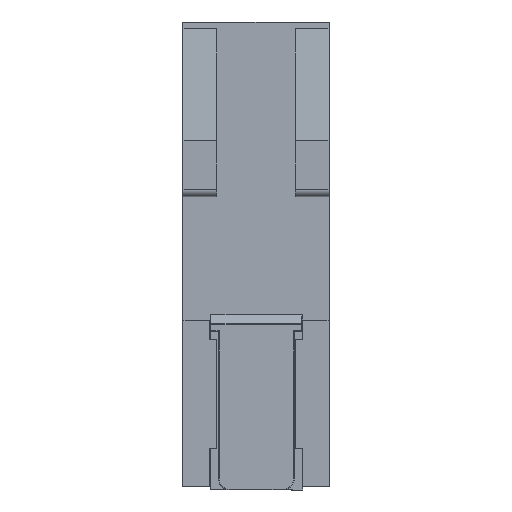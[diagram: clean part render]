
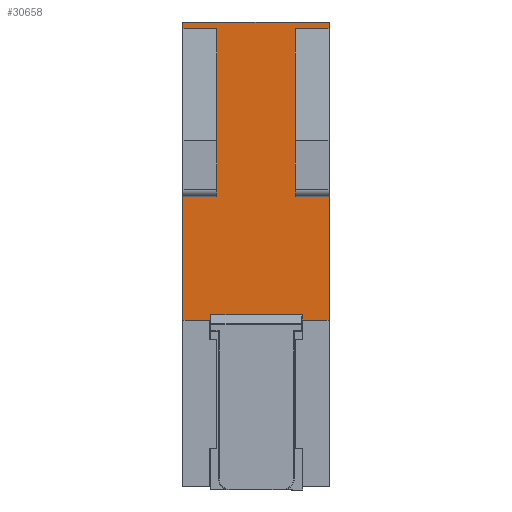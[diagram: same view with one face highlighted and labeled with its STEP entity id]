
A CAD part, left-side view. The second image highlights one B-rep face of the part: STEP entity #30658.
In plain terms, the highlighted planar face has unit normal (-1, 0, 0) as drawn and (1, 0, 0) by its records, which use the part's own axes.
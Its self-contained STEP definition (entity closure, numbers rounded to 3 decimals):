
#2240=FACE_OUTER_BOUND('',#3860,.T.);
#3860=EDGE_LOOP('',(#23546,#23547,#23548,#23549,#23550,#23551,#23552,#23553,
#23554,#23555,#23556,#23557,#23558,#23559,#23560,#23561));
#5960=LINE('',#42298,#9388);
#5966=LINE('',#42313,#9394);
#7420=LINE('',#46100,#10848);
#7431=LINE('',#46128,#10859);
#7432=LINE('',#46130,#10860);
#7433=LINE('',#46132,#10861);
#7434=LINE('',#46134,#10862);
#7435=LINE('',#46136,#10863);
#7436=LINE('',#46138,#10864);
#7437=LINE('',#46140,#10865);
#7438=LINE('',#46142,#10866);
#7439=LINE('',#46143,#10867);
#7440=LINE('',#46145,#10868);
#7441=LINE('',#46147,#10869);
#7442=LINE('',#46148,#10870);
#7443=LINE('',#46149,#10871);
#9388=VECTOR('',#34257,36.5);
#9394=VECTOR('',#34267,1.821);
#10848=VECTOR('',#37801,41.379);
#10859=VECTOR('',#37820,41.379);
#10860=VECTOR('',#37823,9.);
#10861=VECTOR('',#37824,7.);
#10862=VECTOR('',#37825,44.3);
#10863=VECTOR('',#37826,25.);
#10864=VECTOR('',#37827,44.3);
#10865=VECTOR('',#37828,7.);
#10866=VECTOR('',#37829,36.5);
#10867=VECTOR('',#37830,9.);
#10868=VECTOR('',#37831,9.);
#10869=VECTOR('',#37832,1.821);
#10870=VECTOR('',#37833,39.);
#10871=VECTOR('',#37834,9.);
#12792=VERTEX_POINT('',#42286);
#12797=VERTEX_POINT('',#42295);
#12798=VERTEX_POINT('',#42297);
#12805=VERTEX_POINT('',#42311);
#13956=VERTEX_POINT('',#46096);
#13958=VERTEX_POINT('',#46099);
#13965=VERTEX_POINT('',#46114);
#13971=VERTEX_POINT('',#46126);
#13972=VERTEX_POINT('',#46131);
#13973=VERTEX_POINT('',#46133);
#13974=VERTEX_POINT('',#46135);
#13975=VERTEX_POINT('',#46137);
#13976=VERTEX_POINT('',#46139);
#13977=VERTEX_POINT('',#46141);
#13978=VERTEX_POINT('',#46144);
#13979=VERTEX_POINT('',#46146);
#15809=EDGE_CURVE('',#12797,#12798,#5960,.T.);
#15817=EDGE_CURVE('',#12805,#12792,#5966,.T.);
#17620=EDGE_CURVE('',#13956,#13958,#7420,.T.);
#17634=EDGE_CURVE('',#13971,#13965,#7431,.T.);
#17635=EDGE_CURVE('',#12798,#13956,#7432,.T.);
#17636=EDGE_CURVE('',#12797,#13972,#7433,.T.);
#17637=EDGE_CURVE('',#13973,#13972,#7434,.T.);
#17638=EDGE_CURVE('',#13974,#13973,#7435,.T.);
#17639=EDGE_CURVE('',#13974,#13975,#7436,.T.);
#17640=EDGE_CURVE('',#13975,#13976,#7437,.T.);
#17641=EDGE_CURVE('',#13977,#13976,#7438,.T.);
#17642=EDGE_CURVE('',#13965,#13977,#7439,.T.);
#17643=EDGE_CURVE('',#13971,#13978,#7440,.T.);
#17644=EDGE_CURVE('',#13979,#13978,#7441,.T.);
#17645=EDGE_CURVE('',#12792,#13979,#7442,.T.);
#17646=EDGE_CURVE('',#12805,#13958,#7443,.T.);
#23546=ORIENTED_EDGE('',*,*,#17635,.F.);
#23547=ORIENTED_EDGE('',*,*,#15809,.F.);
#23548=ORIENTED_EDGE('',*,*,#17636,.T.);
#23549=ORIENTED_EDGE('',*,*,#17637,.F.);
#23550=ORIENTED_EDGE('',*,*,#17638,.F.);
#23551=ORIENTED_EDGE('',*,*,#17639,.T.);
#23552=ORIENTED_EDGE('',*,*,#17640,.T.);
#23553=ORIENTED_EDGE('',*,*,#17641,.F.);
#23554=ORIENTED_EDGE('',*,*,#17642,.F.);
#23555=ORIENTED_EDGE('',*,*,#17634,.F.);
#23556=ORIENTED_EDGE('',*,*,#17643,.T.);
#23557=ORIENTED_EDGE('',*,*,#17644,.F.);
#23558=ORIENTED_EDGE('',*,*,#17645,.F.);
#23559=ORIENTED_EDGE('',*,*,#15817,.F.);
#23560=ORIENTED_EDGE('',*,*,#17646,.T.);
#23561=ORIENTED_EDGE('',*,*,#17620,.F.);
#29293=PLANE('',#32661);
#30658=ADVANCED_FACE('',(#2240),#29293,.T.);
#32661=AXIS2_PLACEMENT_3D('',#46129,#37821,#37822);
#34257=DIRECTION('',(0.,1.,0.));
#34267=DIRECTION('',(0.,1.,0.));
#37801=DIRECTION('',(0.,1.,0.));
#37820=DIRECTION('',(0.,-1.,0.));
#37821=DIRECTION('center_axis',(1.,0.,0.));
#37822=DIRECTION('ref_axis',(0.,0.,-1.));
#37823=DIRECTION('',(0.,0.,-1.));
#37824=DIRECTION('',(0.,0.,-1.));
#37825=DIRECTION('',(0.,1.,0.));
#37826=DIRECTION('',(0.,0.,1.));
#37827=DIRECTION('',(0.,1.,0.));
#37828=DIRECTION('',(0.,0.,-1.));
#37829=DIRECTION('',(0.,-1.,0.));
#37830=DIRECTION('',(0.,0.,-1.));
#37831=DIRECTION('',(0.,0.,-1.));
#37832=DIRECTION('',(0.,-1.,0.));
#37833=DIRECTION('',(0.,0.,-1.));
#37834=DIRECTION('',(0.,0.,-1.));
#42286=CARTESIAN_POINT('',(1.5,62.,39.));
#42295=CARTESIAN_POINT('',(1.5,-17.7,39.));
#42297=CARTESIAN_POINT('',(1.5,18.8,39.));
#42298=CARTESIAN_POINT('',(1.5,-17.7,39.));
#42311=CARTESIAN_POINT('',(1.5,60.179,39.));
#42313=CARTESIAN_POINT('',(1.5,60.179,39.));
#46096=CARTESIAN_POINT('',(1.5,18.8,30.));
#46099=CARTESIAN_POINT('',(1.5,60.179,30.));
#46100=CARTESIAN_POINT('',(1.5,48.959,30.));
#46114=CARTESIAN_POINT('',(1.5,18.8,9.));
#46126=CARTESIAN_POINT('',(1.5,60.179,9.));
#46128=CARTESIAN_POINT('',(1.5,26.52,9.));
#46129=CARTESIAN_POINT('Origin',(1.5,-17.7,39.));
#46130=CARTESIAN_POINT('',(1.5,18.8,39.));
#46131=CARTESIAN_POINT('',(1.5,-17.7,32.));
#46132=CARTESIAN_POINT('',(1.5,-17.7,39.));
#46133=CARTESIAN_POINT('',(1.5,-62.,32.));
#46134=CARTESIAN_POINT('',(1.5,-62.,32.));
#46135=CARTESIAN_POINT('',(1.5,-62.,7.));
#46136=CARTESIAN_POINT('',(1.5,-62.,16.));
#46137=CARTESIAN_POINT('',(1.5,-17.7,7.));
#46138=CARTESIAN_POINT('',(1.5,-62.,7.));
#46139=CARTESIAN_POINT('',(1.5,-17.7,0.));
#46140=CARTESIAN_POINT('',(1.5,-17.7,39.));
#46141=CARTESIAN_POINT('',(1.5,18.8,0.));
#46142=CARTESIAN_POINT('',(1.5,-8.85,0.));
#46143=CARTESIAN_POINT('',(1.5,18.8,39.));
#46144=CARTESIAN_POINT('',(1.5,60.179,0.));
#46145=CARTESIAN_POINT('',(1.5,60.179,39.));
#46146=CARTESIAN_POINT('',(1.5,62.,0.));
#46147=CARTESIAN_POINT('',(1.5,30.089,0.));
#46148=CARTESIAN_POINT('',(1.5,62.,39.));
#46149=CARTESIAN_POINT('',(1.5,60.179,39.));
